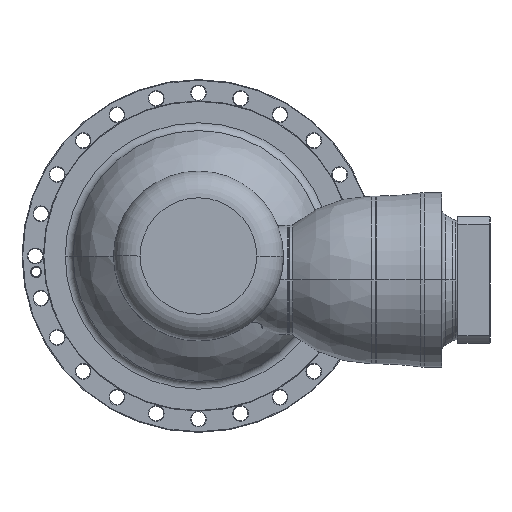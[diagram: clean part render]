
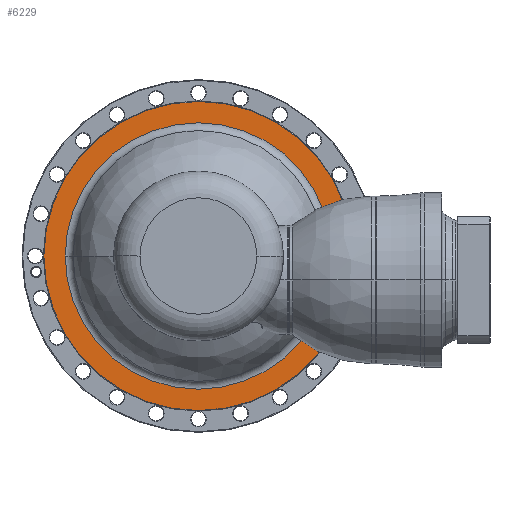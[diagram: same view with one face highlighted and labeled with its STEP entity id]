
A CAD part, left-side view. The second image highlights one B-rep face of the part: STEP entity #6229.
In plain terms, the highlighted planar face has unit normal (-1, 0, 0) as drawn and (1, 0, 0) by its records, which use the part's own axes.
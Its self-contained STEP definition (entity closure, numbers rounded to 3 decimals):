
#5700=CARTESIAN_POINT('',(-137.5,0.,0.));
#5701=DIRECTION('',(-1.,0.,0.));
#5702=DIRECTION('',(0.,-1.,0.));
#5703=AXIS2_PLACEMENT_3D('',#5700,#5701,#5702);
#5705=CARTESIAN_POINT('',(-137.5,0.,0.));
#5706=DIRECTION('',(-1.,0.,0.));
#5707=DIRECTION('',(0.,1.,0.));
#5708=AXIS2_PLACEMENT_3D('',#5705,#5706,#5707);
#5710=CARTESIAN_POINT('',(-137.5,0.,0.));
#5711=DIRECTION('',(1.,0.,0.));
#5712=DIRECTION('',(0.,-1.,0.));
#5713=AXIS2_PLACEMENT_3D('',#5710,#5711,#5712);
#5715=CARTESIAN_POINT('',(-137.5,0.,0.));
#5716=DIRECTION('',(1.,0.,0.));
#5717=DIRECTION('',(0.,1.,0.));
#5718=AXIS2_PLACEMENT_3D('',#5715,#5716,#5717);
#5947=CARTESIAN_POINT('',(-137.5,-232.2,0.));
#5948=CARTESIAN_POINT('',(-137.5,232.2,0.));
#5949=VERTEX_POINT('',#5947);
#5950=VERTEX_POINT('',#5948);
#5995=CARTESIAN_POINT('',(-137.5,-200.055,0.));
#5996=CARTESIAN_POINT('',(-137.5,200.055,0.));
#5997=VERTEX_POINT('',#5995);
#5998=VERTEX_POINT('',#5996);
#6213=CARTESIAN_POINT('',(-137.5,0.,0.));
#6214=DIRECTION('',(1.,0.,0.));
#6215=DIRECTION('',(0.,-1.,0.));
#6216=AXIS2_PLACEMENT_3D('',#6213,#6214,#6215);
#6217=PLANE('',#6216);
#6219=ORIENTED_EDGE('',*,*,#6218,.T.);
#6221=ORIENTED_EDGE('',*,*,#6220,.T.);
#6222=EDGE_LOOP('',(#6219,#6221));
#6223=FACE_OUTER_BOUND('',#6222,.F.);
#6224=ORIENTED_EDGE('',*,*,#6203,.T.);
#6226=ORIENTED_EDGE('',*,*,#6225,.T.);
#6227=EDGE_LOOP('',(#6224,#6226));
#6228=FACE_BOUND('',#6227,.F.);
#6229=ADVANCED_FACE('',(#6223,#6228),#6217,.T.);
#5704=CIRCLE('',#5703,232.2);
#5709=CIRCLE('',#5708,232.2);
#5714=CIRCLE('',#5713,200.055);
#5719=CIRCLE('',#5718,200.055);
#6203=EDGE_CURVE('',#5997,#5998,#5714,.T.);
#6218=EDGE_CURVE('',#5949,#5950,#5704,.T.);
#6220=EDGE_CURVE('',#5950,#5949,#5709,.T.);
#6225=EDGE_CURVE('',#5998,#5997,#5719,.T.);
